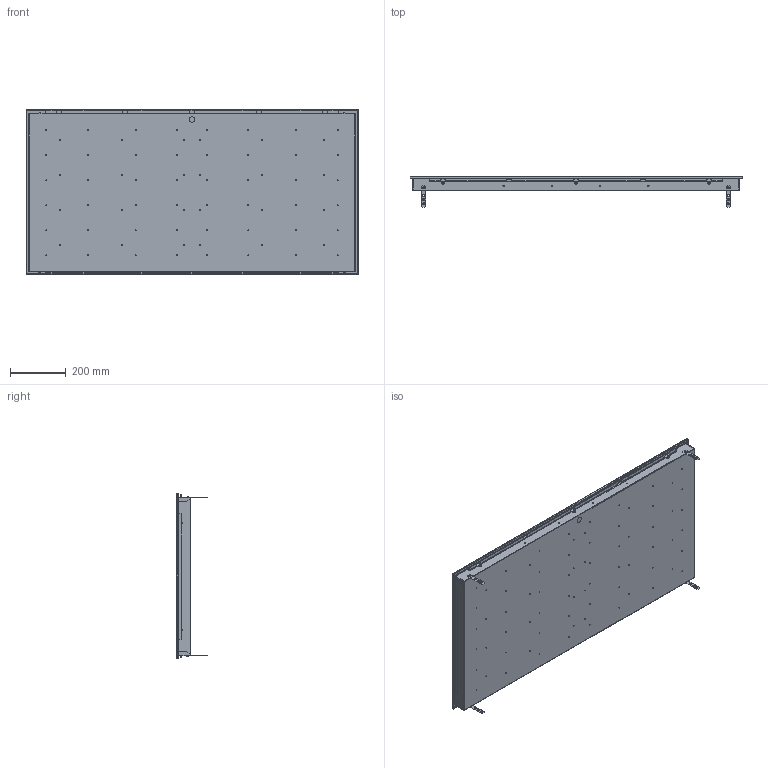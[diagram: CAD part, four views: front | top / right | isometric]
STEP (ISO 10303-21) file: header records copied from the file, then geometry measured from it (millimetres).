
FILE_DESCRIPTION(('STEP AP203'), '1');
FILE_NAME('ÄÊÏ008 02 001.00 ÑÁ - Ñâåòèëüíèê 1200õ600', '', ('UNSPECIFIED'), ('UNSPECIFIED'), 'ASCON STEP Converter 1.6', 'ASCON Math Kernel', '');
FILE_SCHEMA(('CONFIG_CONTROL_DESIGN'));
Length unit declared in the file: millimetre
Products named in the file (14): ДКП008 02 001.00; ДКП008 02 003.01; ДКП008 01 003.03; ДКП008 01 003.02; ДКП008 02 003.08; ДКП008 02 001.02; ДКП008 02 001.04; ДКП008 02 001.06; ДКП008 02 001.05
Assembly tree (25 placements, depth 3):
  ДКП008 02 001.00
    ДКП008 02 003.01
      ДКП008 02 003.01
      ДКП008 01 003.03  x4
      ДКП008 01 003.02  x2
      ДКП008 02 003.08  x2
    ДКП008 02 001.02
      ДКП008 02 001.04
      ДКП008 02 001.06
      ДКП008 02 001.05
    (unnamed)
    (unnamed)  x4
    (unnamed)  x3
    (unnamed)  x3
Bounding box: 1192 x 110 x 592 mm (x, y, z)
Volume: 2627355.6 mm3; surface area: 3493147.5 mm2
Topology: 23 solids, 23 shells, 733 faces, 1761 edges, 1104 vertices
Faces by surface type: plane 446, cylinder 207, bspline 48, torus 20, cone 12
Full cylindrical faces by diameter (mm): 1.85 x4, 2.2 x6, 2.5 x10, 3.2 x4, 3.5 x86, 4.4 x6, 4.5 x4, 8 x12, 20 x1
Entity records: 17792 total; most frequent: CARTESIAN_POINT 4221, DIRECTION 2554, ORIENTED_EDGE 2320, EDGE_CURVE 1160, AXIS2_PLACEMENT_3D 897, EDGE_LOOP 848, VERTEX_POINT 772, LINE 760
